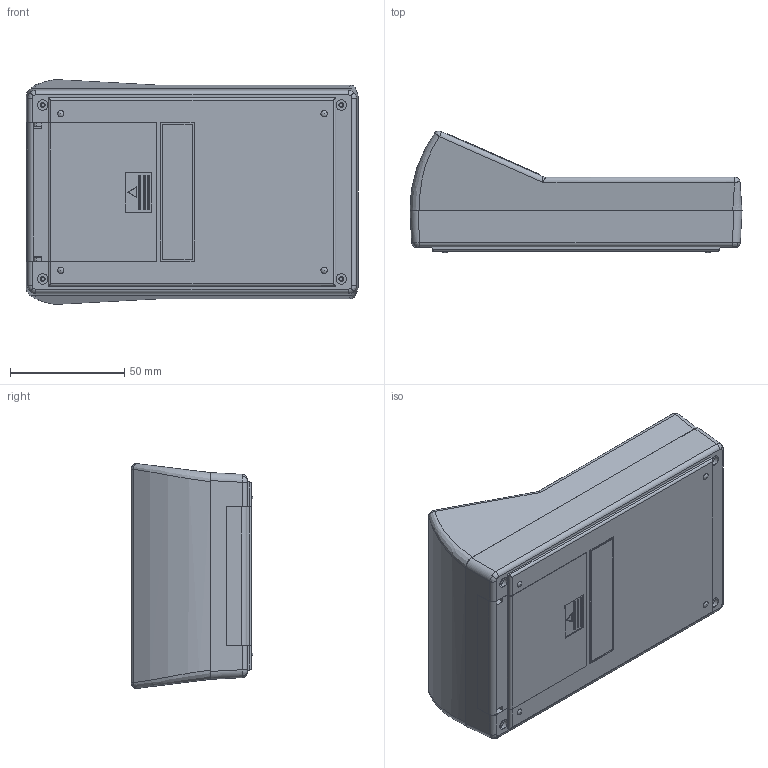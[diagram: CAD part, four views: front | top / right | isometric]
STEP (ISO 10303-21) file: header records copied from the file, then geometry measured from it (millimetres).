
FILE_DESCRIPTION (( 'STEP AP214' ), '1' );
FILE_NAME ('90-53-3A-R.STEP', '2020-10-16T13:48:17', ( 'Rudy' ), ( '' ), 'SwSTEP 2.0', 'SolidWorks 2014', '' );
FILE_SCHEMA (( 'AUTOMOTIVE_DESIGN' ));
Length unit declared in the file: millimetre
Products named in the file (6): 90 PCB 3AA; 3AAdoor; 90-bessel; Top Angled LCD; 90-3AA; 90-53-3A-R
Assembly tree (5 placements, depth 2):
  90-53-3A-R
    90-3AA
    Top Angled LCD
    90-bessel
    3AAdoor
    90 PCB 3AA
Bounding box: 145.5 x 53.32 x 98.54 mm (x, y, z)
Volume: 140020 mm3; surface area: 122282 mm2
Topology: 5 solids, 5 shells, 672 faces, 1790 edges, 1148 vertices
Faces by surface type: plane 429, cylinder 145, cone 44, torus 24, bspline 20, sphere 10
Entity records: 21822 total; most frequent: CARTESIAN_POINT 4947, ORIENTED_EDGE 3540, DIRECTION 3337, EDGE_CURVE 1770, LINE 1305, VECTOR 1305, VERTEX_POINT 1140, AXIS2_PLACEMENT_3D 1016
